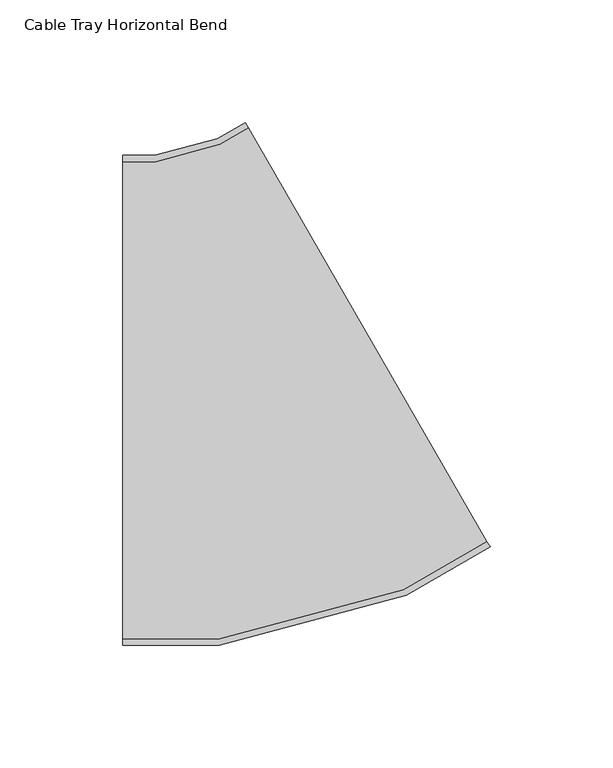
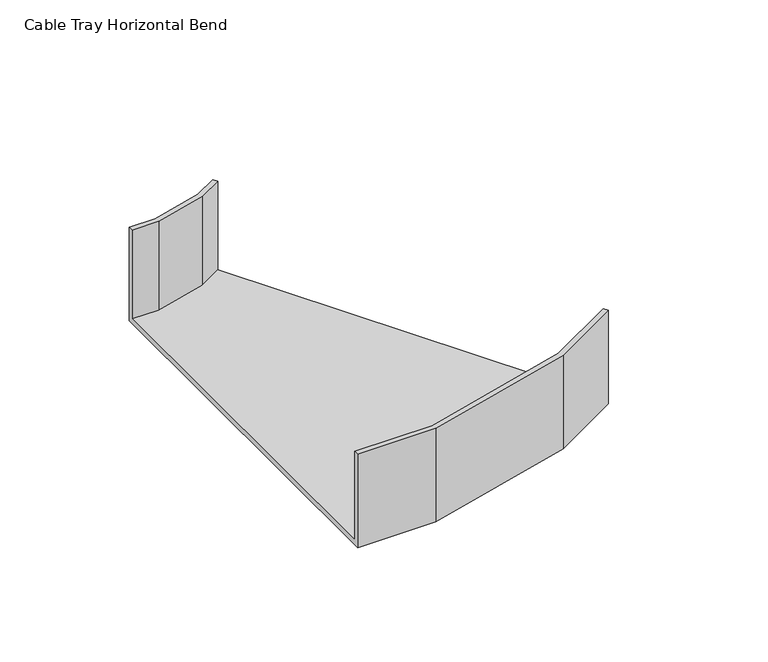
"""IFC4 building model written with IfcOpenShell, lengths in millimetres: cable carrier fitting geometry, Cable Tray Horizontal Bend : ELEC_SUB_CT_N2402."""

from ifc_helpers import new_model, si_unit, origin, place, context, project, spatial, faceted_brep, source, transform, mapped, element, save


def cable_tray_horizontal_bend_a9337890(model_context):
    return source(origin(), model_context, "Body", "Brep", [
        faceted_brep([(-53.5898385, -100.0, -25.0), (-53.5898385, -100.0, 25.0), (-53.5898385, -97.46, 25.0), (-53.5898385, -97.46, -22.46), (-53.5898385, 97.46, -22.46), (-53.5898385, 97.46, 25.0), (-53.5898385, 100.0, 25.0), (-53.5898385, 100.0, -25.0), (96.4101615, -59.8076211, -25.0), (-3.5898385, 113.3974596, -25.0), (-3.5898385, 113.3974596, 25.0), (-2.3198385, 111.1977551, 25.0), (-2.3198385, 111.1977551, -22.46), (95.1401615, -57.6079166, -22.46), (95.1401615, -57.6079166, 25.0), (96.4101615, -59.8076211, 25.0), (-14.0940892, -100.0, -25.0), (-14.0940892, -100.0, 25.0), (62.2058393, -79.5554958, 25.0), (61.2254359, -77.1885926, 25.0), (-14.4284866, -97.46, 25.0), (-14.4284866, -97.46, -22.46), (61.2254359, -77.1885926, -22.46), (-14.0108758, 104.4479316, -22.46), (-40.0901914, 97.46, -22.46), (-40.0901914, 97.46, 25.0), (-14.0108758, 104.4479316, 25.0), (-14.9912792, 106.8148347, 25.0), (-40.4245887, 100.0, 25.0), (-40.4245887, 100.0, -25.0), (-14.9912792, 106.8148347, -25.0), (62.2058393, -79.5554958, -25.0)], [[[0, 1, 2, 3, 4, 5, 6, 7]], [[8, 9, 10, 11, 12, 13, 14, 15]], [[1, 0, 16, 17]], [[2, 1, 17, 18, 15, 14, 19, 20]], [[3, 2, 20, 21]], [[4, 3, 21, 22, 13, 12, 23, 24]], [[5, 4, 24, 25]], [[6, 5, 25, 26, 11, 10, 27, 28]], [[7, 6, 28, 29]], [[0, 7, 29, 30, 9, 8, 31, 16]], [[17, 16, 31, 18]], [[21, 20, 19, 22]], [[25, 24, 23, 26]], [[29, 28, 27, 30]], [[18, 31, 8, 15]], [[22, 19, 14, 13]], [[26, 23, 12, 11]], [[30, 27, 10, 9]]]),
    ])


if __name__ == "__main__":
    model = new_model("IFC4")
    model_context = context("Model", 3, world=origin())
    ifc_project = project(units=[si_unit("LENGTHUNIT", "METRE", prefix="MILLI")], contexts=[model_context])
    site = spatial("IfcSite", under=ifc_project)
    building = spatial("IfcBuilding", under=site)
    placement = place(None, origin())
    cable_tray_horizontal_bend_shape = cable_tray_horizontal_bend_a9337890(model_context)
    element("IfcCableCarrierFitting", 1, ObjectType="Cable Tray Horizontal Bend : ELEC_SUB_CT_N2402", at=placement, inside=building, context=model_context, shape_type="MappedRepresentation", body=[
        mapped(cable_tray_horizontal_bend_shape, transform((0.0, 0.0, 0.0), x_axis=(1.0, 0.0, 0.0), y_axis=(0.0, 1.0, 0.0), z_axis=(0.0, 0.0, 1.0))),
    ])
    save(model, "model.ifc")
